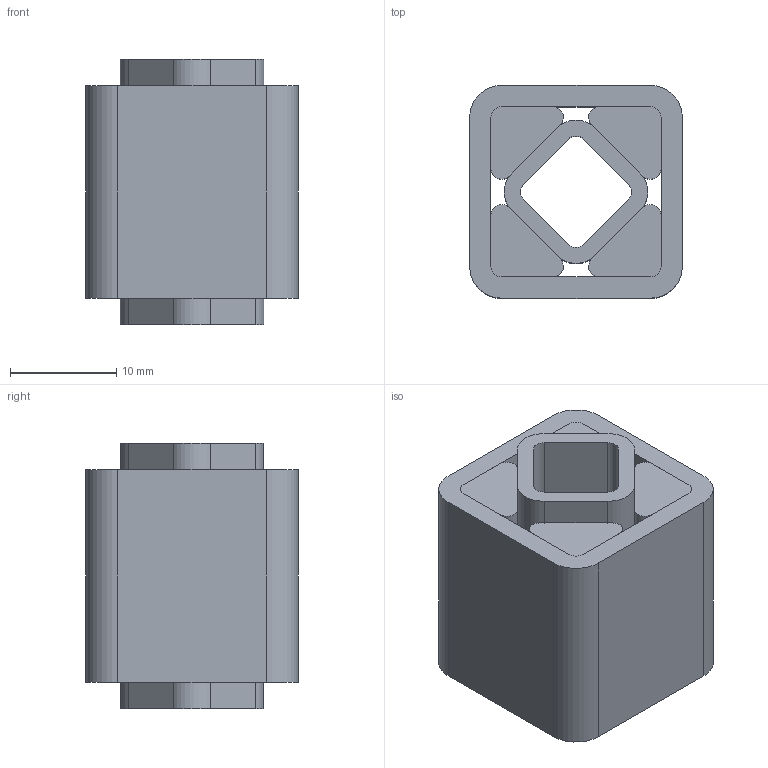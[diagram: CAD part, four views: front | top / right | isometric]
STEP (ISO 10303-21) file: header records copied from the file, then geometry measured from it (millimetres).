
FILE_DESCRIPTION((''),'2;1');
FILE_NAME('D:\ROSTA\Gummifederelemente\3D\DR-S11x20_01021001.stp','2005-02-01T14:44:30',('Administrator'),(''),'Autodesk Inventor 8','Autodesk Inventor 8','');
FILE_SCHEMA(('AUTOMOTIVE_DESIGN { 1 0 10303 214 1 1 1 1 }'));
Length unit declared in the file: millimetre
Products named in the file (4): Baugruppe2; 4.4.3725-001; 4.4.3725-002; 4.4.3725-003
Assembly tree (6 placements, depth 2):
  Baugruppe2
    4.4.3725-001
    4.4.3725-002
    4.4.3725-003  x4
Bounding box: 20 x 20 x 25 mm (x, y, z)
Volume: 6544 mm3; surface area: 6936.4 mm2
Topology: 6 solids, 6 shells, 68 faces, 168 edges, 112 vertices
Faces by surface type: plane 40, cylinder 28
Entity records: 1491 total; most frequent: DIRECTION 260, CARTESIAN_POINT 244, ORIENTED_EDGE 228, EDGE_CURVE 114, AXIS2_PLACEMENT_3D 92, VERTEX_POINT 76, VECTOR 76, LINE 76
